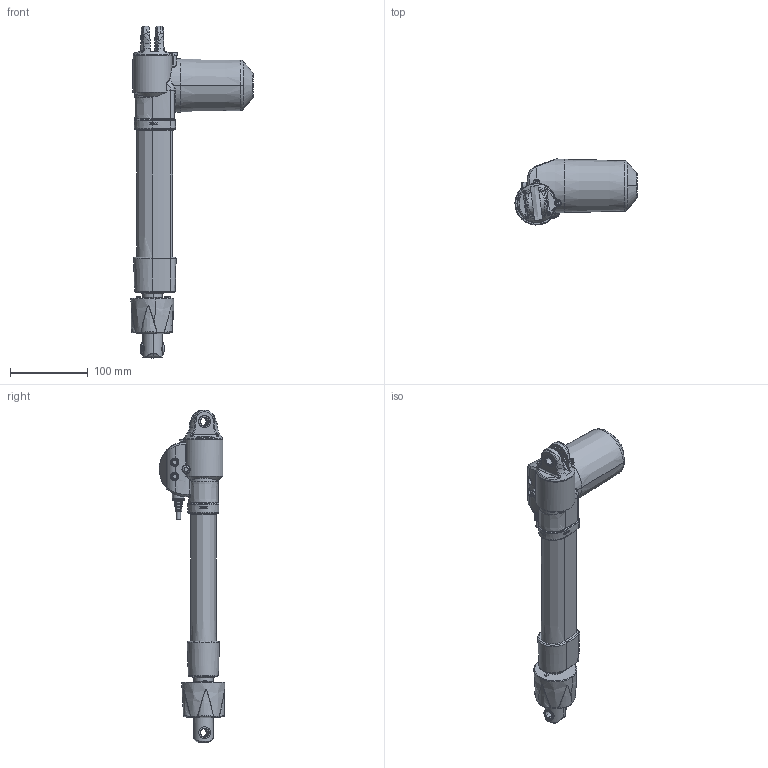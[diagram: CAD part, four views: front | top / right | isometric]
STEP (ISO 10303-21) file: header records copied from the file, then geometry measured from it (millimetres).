
FILE_DESCRIPTION((''),'2;1');
FILE_NAME('1046W4037_ASM','2026-01-08T09:26:40',('cnkz2'),(''),'CREO PARAMETRIC BY PTC INC, 2022024','CREO PARAMETRIC BY PTC INC, 2022024','');
FILE_SCHEMA(('AUTOMOTIVE_DESIGN { 1 0 10303 214 1 1 1 1 }'));
Length unit declared in the file: millimetre
Products named in the file (5): SHELL-1046W4037-HOUSING-V1; SHELL-1046W4037-PR; SHELL-1046W4037-OT; SHELL-1046W4037-BF; 1046W4037_ASM
Assembly tree (4 placements, depth 2):
  1046W4037_ASM
    SHELL-1046W4037-HOUSING-V1
    SHELL-1046W4037-PR
    SHELL-1046W4037-OT
    SHELL-1046W4037-BF
Bounding box: 157.06 x 84.49 x 426.86 mm (x, y, z)
Volume: 1239754.1 mm3; surface area: 137768.2 mm2
Topology: 4 solids, 9 shells, 1265 faces, 2927 edges, 1739 vertices
Faces by surface type: bspline 418, plane 226, cone 206, cylinder 183, torus 147, sphere 76, extrusion 9
Entity records: 61130 total; most frequent: CARTESIAN_POINT 35172, ORIENTED_EDGE 5850, DIRECTION 4730, EDGE_CURVE 2925, AXIS2_PLACEMENT_3D 2084, VERTEX_POINT 1739, EDGE_LOOP 1340, FACE_OUTER_BOUND 1265
